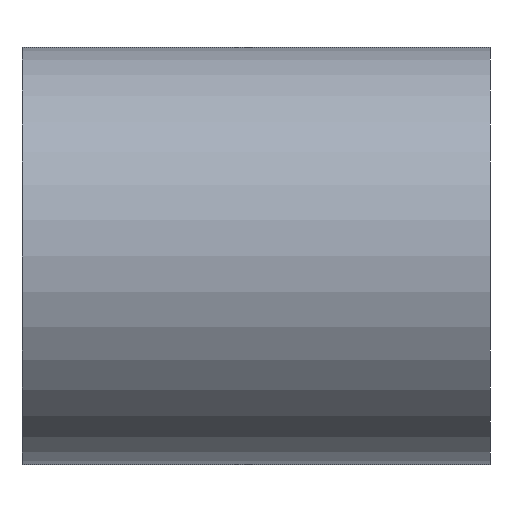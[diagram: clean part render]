
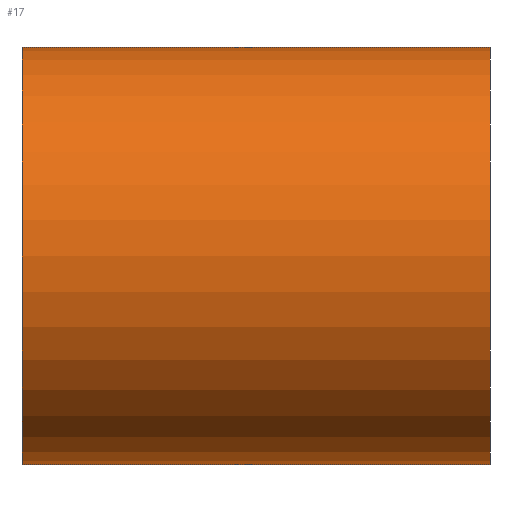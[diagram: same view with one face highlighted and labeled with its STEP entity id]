
A CAD part, front view. The second image highlights one B-rep face of the part: STEP entity #17.
In plain terms, the highlighted cylindrical face has radius 20.5 mm (diameter 41 mm), a full revolution.
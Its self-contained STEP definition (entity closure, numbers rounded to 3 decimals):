
#17 = ADVANCED_FACE('',(#18),#32,.T.);
#18 = FACE_BOUND('',#19,.F.);
#19 = EDGE_LOOP('',(#20,#50,#77,#78));
#20 = ORIENTED_EDGE('',*,*,#21,.T.);
#21 = EDGE_CURVE('',#22,#24,#26,.T.);
#22 = VERTEX_POINT('',#23);
#23 = CARTESIAN_POINT('',(31.,20.5,-20.));
#24 = VERTEX_POINT('',#25);
#25 = CARTESIAN_POINT('',(77.,20.5,-20.));
#26 = SEAM_CURVE('',#27,(#31,#43),.PCURVE_S1.);
#27 = LINE('',#28,#29);
#28 = CARTESIAN_POINT('',(31.,20.5,-20.));
#29 = VECTOR('',#30,1.);
#30 = DIRECTION('',(1.,0.,0.));
#31 = PCURVE('',#32,#37);
#32 = CYLINDRICAL_SURFACE('',#33,20.5);
#33 = AXIS2_PLACEMENT_3D('',#34,#35,#36);
#34 = CARTESIAN_POINT('',(31.,0.,-20.));
#35 = DIRECTION('',(-1.,-0.,-0.));
#36 = DIRECTION('',(0.,1.,0.));
#37 = DEFINITIONAL_REPRESENTATION('',(#38),#42);
#38 = LINE('',#39,#40);
#39 = CARTESIAN_POINT('',(-0.,0.));
#40 = VECTOR('',#41,1.);
#41 = DIRECTION('',(-0.,-1.));
#42 = ( GEOMETRIC_REPRESENTATION_CONTEXT(2) 
PARAMETRIC_REPRESENTATION_CONTEXT() REPRESENTATION_CONTEXT('2D SPACE',''
  ) );
#43 = PCURVE('',#32,#44);
#44 = DEFINITIONAL_REPRESENTATION('',(#45),#49);
#45 = LINE('',#46,#47);
#46 = CARTESIAN_POINT('',(-6.283,0.));
#47 = VECTOR('',#48,1.);
#48 = DIRECTION('',(-0.,-1.));
#49 = ( GEOMETRIC_REPRESENTATION_CONTEXT(2) 
PARAMETRIC_REPRESENTATION_CONTEXT() REPRESENTATION_CONTEXT('2D SPACE',''
  ) );
#50 = ORIENTED_EDGE('',*,*,#51,.T.);
#51 = EDGE_CURVE('',#24,#24,#52,.T.);
#52 = SURFACE_CURVE('',#53,(#58,#65),.PCURVE_S1.);
#53 = CIRCLE('',#54,20.5);
#54 = AXIS2_PLACEMENT_3D('',#55,#56,#57);
#55 = CARTESIAN_POINT('',(77.,0.,-20.));
#56 = DIRECTION('',(1.,0.,0.));
#57 = DIRECTION('',(0.,1.,0.));
#58 = PCURVE('',#32,#59);
#59 = DEFINITIONAL_REPRESENTATION('',(#60),#64);
#60 = LINE('',#61,#62);
#61 = CARTESIAN_POINT('',(-0.,-46.));
#62 = VECTOR('',#63,1.);
#63 = DIRECTION('',(-1.,0.));
#64 = ( GEOMETRIC_REPRESENTATION_CONTEXT(2) 
PARAMETRIC_REPRESENTATION_CONTEXT() REPRESENTATION_CONTEXT('2D SPACE',''
  ) );
#65 = PCURVE('',#66,#71);
#66 = PLANE('',#67);
#67 = AXIS2_PLACEMENT_3D('',#68,#69,#70);
#68 = CARTESIAN_POINT('',(77.,0.,-20.));
#69 = DIRECTION('',(1.,0.,0.));
#70 = DIRECTION('',(-0.,0.,1.));
#71 = DEFINITIONAL_REPRESENTATION('',(#72),#76);
#72 = CIRCLE('',#73,20.5);
#73 = AXIS2_PLACEMENT_2D('',#74,#75);
#74 = CARTESIAN_POINT('',(0.,0.));
#75 = DIRECTION('',(0.,-1.));
#76 = ( GEOMETRIC_REPRESENTATION_CONTEXT(2) 
PARAMETRIC_REPRESENTATION_CONTEXT() REPRESENTATION_CONTEXT('2D SPACE',''
  ) );
#77 = ORIENTED_EDGE('',*,*,#21,.F.);
#78 = ORIENTED_EDGE('',*,*,#79,.F.);
#79 = EDGE_CURVE('',#22,#22,#80,.T.);
#80 = SURFACE_CURVE('',#81,(#86,#93),.PCURVE_S1.);
#81 = CIRCLE('',#82,20.5);
#82 = AXIS2_PLACEMENT_3D('',#83,#84,#85);
#83 = CARTESIAN_POINT('',(31.,0.,-20.));
#84 = DIRECTION('',(1.,0.,0.));
#85 = DIRECTION('',(0.,1.,0.));
#86 = PCURVE('',#32,#87);
#87 = DEFINITIONAL_REPRESENTATION('',(#88),#92);
#88 = LINE('',#89,#90);
#89 = CARTESIAN_POINT('',(-0.,0.));
#90 = VECTOR('',#91,1.);
#91 = DIRECTION('',(-1.,0.));
#92 = ( GEOMETRIC_REPRESENTATION_CONTEXT(2) 
PARAMETRIC_REPRESENTATION_CONTEXT() REPRESENTATION_CONTEXT('2D SPACE',''
  ) );
#93 = PCURVE('',#94,#99);
#94 = PLANE('',#95);
#95 = AXIS2_PLACEMENT_3D('',#96,#97,#98);
#96 = CARTESIAN_POINT('',(31.,0.,-20.));
#97 = DIRECTION('',(1.,0.,0.));
#98 = DIRECTION('',(-0.,0.,1.));
#99 = DEFINITIONAL_REPRESENTATION('',(#100),#104);
#100 = CIRCLE('',#101,20.5);
#101 = AXIS2_PLACEMENT_2D('',#102,#103);
#102 = CARTESIAN_POINT('',(0.,0.));
#103 = DIRECTION('',(0.,-1.));
#104 = ( GEOMETRIC_REPRESENTATION_CONTEXT(2) 
PARAMETRIC_REPRESENTATION_CONTEXT() REPRESENTATION_CONTEXT('2D SPACE',''
  ) );
